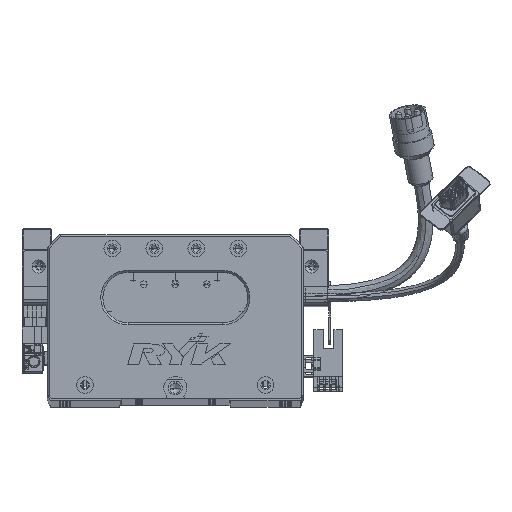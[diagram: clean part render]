
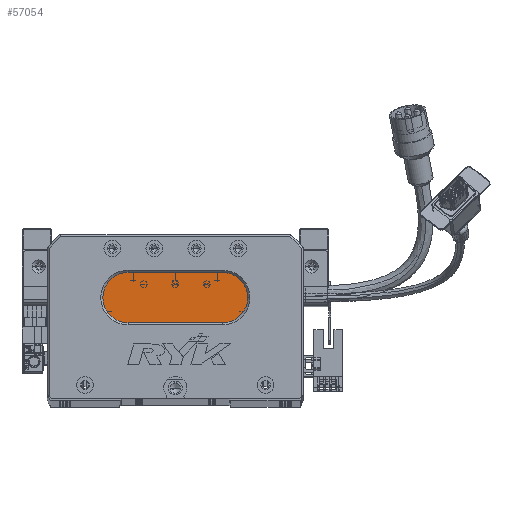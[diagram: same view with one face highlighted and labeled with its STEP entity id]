
A CAD part, top view. The second image highlights one B-rep face of the part: STEP entity #57054.
In plain terms, the highlighted planar face has unit normal (0, 0, 1) as drawn and (0, 0, -1) by its records, which use the part's own axes.
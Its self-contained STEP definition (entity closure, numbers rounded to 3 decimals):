
#1526 = EDGE_CURVE ( 'NONE', #48058, #14326, #49037, .T. ) ;
#2540 = DIRECTION ( 'NONE',  ( 0., 0., -1. ) ) ;
#3830 = PLANE ( 'NONE',  #91829 ) ;
#4991 = VERTEX_POINT ( 'NONE', #70258 ) ;
#9229 = EDGE_LOOP ( 'NONE', ( #79969, #16167, #45653, #101831, #48467 ) ) ;
#12008 = CIRCLE ( 'NONE', #84608, 12. ) ;
#12325 = CARTESIAN_POINT ( 'NONE',  ( 38.5, 36., 13. ) ) ;
#14326 = VERTEX_POINT ( 'NONE', #12325 ) ;
#16167 = ORIENTED_EDGE ( 'NONE', *, *, #1526, .T. ) ;
#18709 = FACE_OUTER_BOUND ( 'NONE', #9229, .T. ) ;
#19240 = CARTESIAN_POINT ( 'NONE',  ( 83.5, 48., 13. ) ) ;
#22770 = EDGE_CURVE ( 'NONE', #4991, #78196, #23070, .T. ) ;
#23070 = CIRCLE ( 'NONE', #103411, 12. ) ;
#23708 = DIRECTION ( 'NONE',  ( 1., 0., 0. ) ) ;
#24465 = DIRECTION ( 'NONE',  ( -1., 0., 0. ) ) ;
#25856 = CARTESIAN_POINT ( 'NONE',  ( 38.5, 48., 13. ) ) ;
#26291 = CARTESIAN_POINT ( 'NONE',  ( 38.5, 48., 13. ) ) ;
#32579 = CARTESIAN_POINT ( 'NONE',  ( 83.5, 36., 13. ) ) ;
#33026 = CARTESIAN_POINT ( 'NONE',  ( 83.5, 36., 13. ) ) ;
#33529 = VECTOR ( 'NONE', #23708, 1000. ) ;
#36405 = CARTESIAN_POINT ( 'NONE',  ( 83.5, 60., 13. ) ) ;
#37965 = CARTESIAN_POINT ( 'NONE',  ( 83.5, 48., 13. ) ) ;
#40747 = EDGE_CURVE ( 'NONE', #14326, #4991, #55500, .T. ) ;
#43354 = DIRECTION ( 'NONE',  ( -1., 0., 0. ) ) ;
#45653 = ORIENTED_EDGE ( 'NONE', *, *, #40747, .T. ) ;
#48058 = VERTEX_POINT ( 'NONE', #32579 ) ;
#48467 = ORIENTED_EDGE ( 'NONE', *, *, #58259, .T. ) ;
#48556 = LINE ( 'NONE', #72930, #33529 ) ;
#48875 = DIRECTION ( 'NONE',  ( 0., 0., -1. ) ) ;
#49037 = LINE ( 'NONE', #33026, #75276 ) ;
#55039 = DIRECTION ( 'NONE',  ( -1., 0., 0. ) ) ;
#55479 = CARTESIAN_POINT ( 'NONE',  ( 38.5, 60., 13. ) ) ;
#55500 = CIRCLE ( 'NONE', #86777, 12. ) ;
#57054 = ADVANCED_FACE ( 'NONE', ( #18709 ), #3830, .T. ) ;
#58259 = EDGE_CURVE ( 'NONE', #78196, #99635, #48556, .T. ) ;
#59711 = EDGE_CURVE ( 'NONE', #99635, #48058, #12008, .T. ) ;
#67728 = DIRECTION ( 'NONE',  ( 0., 0., -1. ) ) ;
#70027 = DIRECTION ( 'NONE',  ( 0., 0., -1. ) ) ;
#70258 = CARTESIAN_POINT ( 'NONE',  ( 26.5, 48., 13. ) ) ;
#72930 = CARTESIAN_POINT ( 'NONE',  ( 83.5, 60., 13. ) ) ;
#75276 = VECTOR ( 'NONE', #95850, 1000. ) ;
#78196 = VERTEX_POINT ( 'NONE', #55479 ) ;
#79969 = ORIENTED_EDGE ( 'NONE', *, *, #59711, .T. ) ;
#84608 = AXIS2_PLACEMENT_3D ( 'NONE', #37965, #70027, #55039 ) ;
#86777 = AXIS2_PLACEMENT_3D ( 'NONE', #26291, #2540, #92551 ) ;
#91829 = AXIS2_PLACEMENT_3D ( 'NONE', #19240, #67728, #43354 ) ;
#92551 = DIRECTION ( 'NONE',  ( -1., 0., 0. ) ) ;
#95850 = DIRECTION ( 'NONE',  ( -1., 0., 0. ) ) ;
#99635 = VERTEX_POINT ( 'NONE', #36405 ) ;
#101831 = ORIENTED_EDGE ( 'NONE', *, *, #22770, .T. ) ;
#103411 = AXIS2_PLACEMENT_3D ( 'NONE', #25856, #48875, #24465 ) ;
